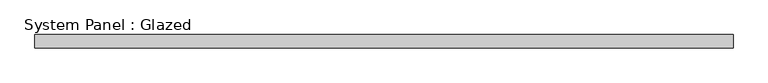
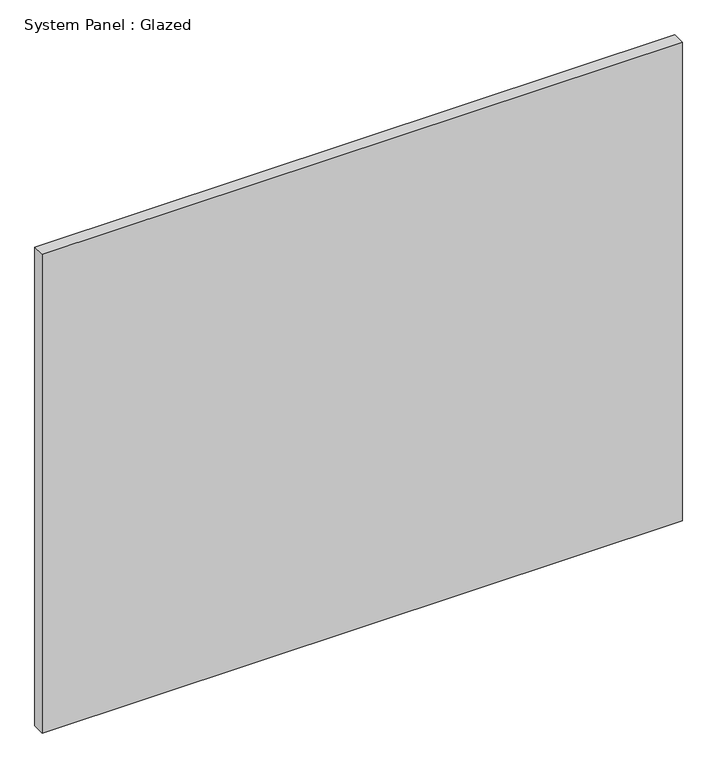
"""IFC4 building model written with IfcOpenShell, lengths in millimetres: plate geometry, System Panel : Glazed."""

from ifc_helpers import new_model, si_unit, origin, origin_with_axes, place, context, project, spatial, polyline, outline, extrude, source, transform, mapped, element, save


def system_panel_glazed_9b01451f(model_context):
    return source(origin(), model_context, "Body", "SweptSolid", [
        extrude(outline(polyline([(656.9445429, 19.05), (-656.9445429, 19.05), (-656.9445429, 44.45), (656.9445429, 44.45), (656.9445429, 19.05)])), origin_with_axes(), (0.0, 0.0, 1.0), 1038.7193103),
    ])


if __name__ == "__main__":
    model = new_model("IFC4")
    model_context = context("Model", 3, world=origin())
    ifc_project = project(units=[si_unit("LENGTHUNIT", "METRE", prefix="MILLI")], contexts=[model_context])
    site = spatial("IfcSite", under=ifc_project)
    building = spatial("IfcBuilding", under=site)
    placement = place(None, origin())
    system_panel_glazed_shape = system_panel_glazed_9b01451f(model_context)
    element("IfcPlate", 1, ObjectType="System Panel : Glazed", at=placement, inside=building, context=model_context, shape_type="MappedRepresentation", body=[
        mapped(system_panel_glazed_shape, transform((0.0, 0.0, 0.0), x_axis=(1.0, 0.0, 0.0), y_axis=(0.0, 1.0, 0.0), z_axis=(0.0, 0.0, 1.0))),
    ])
    save(model, "model.ifc")
